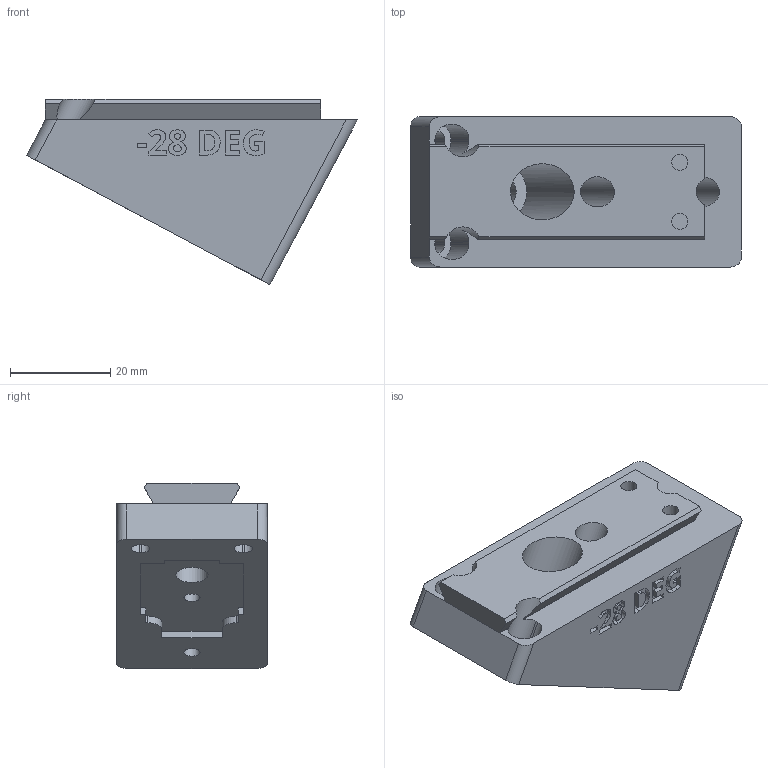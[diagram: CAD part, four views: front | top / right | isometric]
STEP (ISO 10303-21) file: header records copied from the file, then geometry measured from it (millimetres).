
FILE_DESCRIPTION(/* description */ ('STEP AP242 Edition 2','CAx-IF Rec.Pracs.---Representation and Presentation of Product Manufacturing Information (PMI)---4.0---2014-10-13','CAx-IF Rec.Pracs.---3D Tessellated Geometry---0.4---2014-09-14','2;1','CAx-IF Rec.Pracs.---User Defined Attributes---1.5---2016-08-15'),/* implementation_level */ '2;1');
FILE_NAME(/* name */ 'Camera Wedges - CAMERA MOUNTING WEDGE, NEG, -28 DEG',/* time_stamp */ '2026-08-11T00:07:40Z',/* author */ (''),/* organization */ (''),/* preprocessor_version */ 'ST-DEVELOPER v20',/* originating_system */ 'ONSHAPE BY PTC INC, 1.219',/* authorisation */ ' ');
FILE_SCHEMA (('AP242_MANAGED_MODEL_BASED_3D_ENGINEERING_MIM_LF { 1 0 10303 442 3 1 4 }'));
Length unit declared in the file: metre
Products named in the file (1): CAMERA MOUNTING WEDGE, NEG, -28 DEG
Bounding box: 66.03 x 30 x 36.95 mm (x, y, z)
Volume: 36100.5 mm3; surface area: 10489.2 mm2
Topology: 1 solids, 1 shells, 300 faces, 823 edges, 548 vertices
Faces by surface type: plane 142, bspline 94, cylinder 64
Full cylindrical faces by diameter (mm): 3.2 x4, 6 x2, 6.4 x1, 11.2 x1
Entity records: 9823 total; most frequent: CARTESIAN_POINT 2696, ORIENTED_EDGE 1628, DIRECTION 1183, EDGE_CURVE 814, VERTEX_POINT 547, LINE 483, VECTOR 483, AXIS2_PLACEMENT_3D 350
